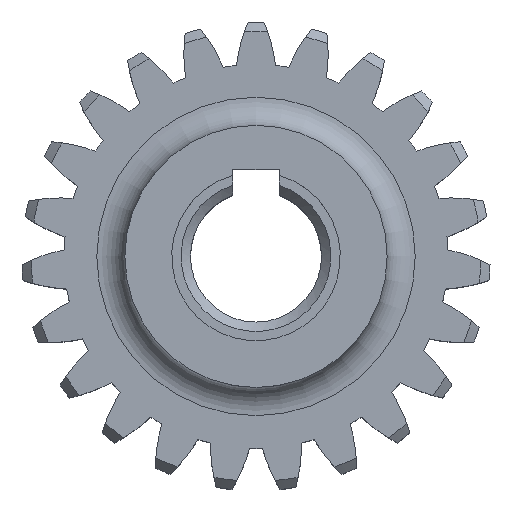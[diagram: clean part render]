
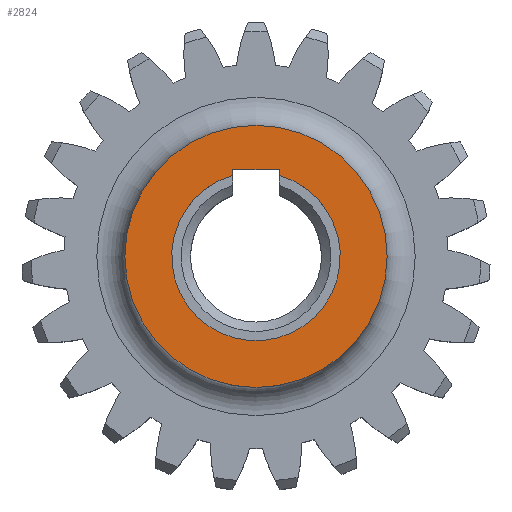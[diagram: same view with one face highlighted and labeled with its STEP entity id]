
A CAD part, top view. The second image highlights one B-rep face of the part: STEP entity #2824.
In plain terms, the highlighted planar face has unit normal (0, 0, 1).
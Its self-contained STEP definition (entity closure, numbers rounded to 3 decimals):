
#69=FACE_BOUND('',#475,.T.);
#77=PLANE('',#3238);
#318=FACE_OUTER_BOUND('',#474,.T.);
#474=EDGE_LOOP('',(#2555));
#475=EDGE_LOOP('',(#2556,#2557,#2558,#2559));
#572=LINE('',#5270,#680);
#578=LINE('',#5287,#686);
#584=LINE('',#5302,#692);
#680=VECTOR('',#4090,10.);
#686=VECTOR('',#4098,10.);
#692=VECTOR('',#4106,10.);
#929=CIRCLE('',#3229,9.);
#934=CIRCLE('',#3239,14.);
#1219=VERTEX_POINT('',#5268);
#1220=VERTEX_POINT('',#5269);
#1226=VERTEX_POINT('',#5285);
#1227=VERTEX_POINT('',#5286);
#1234=VERTEX_POINT('',#5317);
#1655=EDGE_CURVE('',#1219,#1220,#572,.T.);
#1662=EDGE_CURVE('',#1226,#1227,#578,.T.);
#1669=EDGE_CURVE('',#1227,#1219,#584,.T.);
#1672=EDGE_CURVE('',#1220,#1226,#929,.T.);
#1677=EDGE_CURVE('',#1234,#1234,#934,.T.);
#2555=ORIENTED_EDGE('',*,*,#1677,.F.);
#2556=ORIENTED_EDGE('',*,*,#1655,.T.);
#2557=ORIENTED_EDGE('',*,*,#1672,.T.);
#2558=ORIENTED_EDGE('',*,*,#1662,.T.);
#2559=ORIENTED_EDGE('',*,*,#1669,.T.);
#2824=ADVANCED_FACE('',(#318,#69),#77,.T.);
#3229=AXIS2_PLACEMENT_3D('',#5306,#4112,#4113);
#3238=AXIS2_PLACEMENT_3D('',#5316,#4130,#4131);
#3239=AXIS2_PLACEMENT_3D('',#5318,#4132,#4133);
#4090=DIRECTION('',(0.,-1.,0.));
#4098=DIRECTION('',(0.,1.,0.));
#4106=DIRECTION('',(1.,0.,0.));
#4112=DIRECTION('center_axis',(0.,0.,-1.));
#4113=DIRECTION('ref_axis',(1.,0.,0.));
#4130=DIRECTION('center_axis',(0.,0.,1.));
#4131=DIRECTION('ref_axis',(1.,0.,0.));
#4132=DIRECTION('center_axis',(0.,0.,-1.));
#4133=DIRECTION('ref_axis',(1.,0.,0.));
#5268=CARTESIAN_POINT('',(2.5,9.3,12.));
#5269=CARTESIAN_POINT('',(2.5,8.646,12.));
#5270=CARTESIAN_POINT('',(2.5,7.,12.));
#5285=CARTESIAN_POINT('',(-2.5,8.646,12.));
#5286=CARTESIAN_POINT('',(-2.5,9.3,12.));
#5287=CARTESIAN_POINT('',(-2.5,11.65,12.));
#5302=CARTESIAN_POINT('',(1.25,9.3,12.));
#5306=CARTESIAN_POINT('Origin',(0.,0.,12.));
#5316=CARTESIAN_POINT('Origin',(0.,14.,12.));
#5317=CARTESIAN_POINT('',(0.,-14.,12.));
#5318=CARTESIAN_POINT('Origin',(0.,0.,12.));
